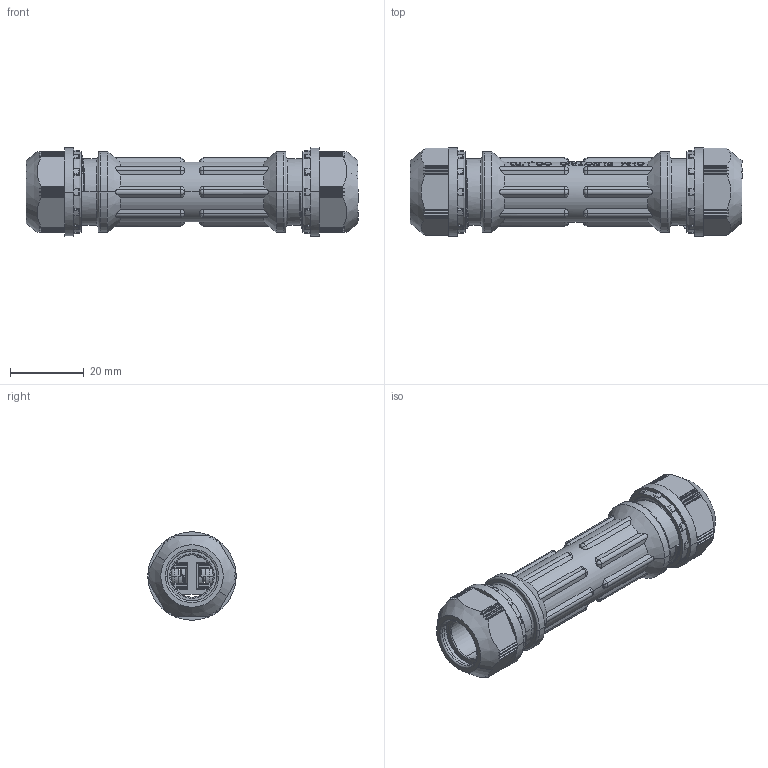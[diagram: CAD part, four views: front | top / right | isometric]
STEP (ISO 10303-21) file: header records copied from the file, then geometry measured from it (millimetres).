
FILE_DESCRIPTION(('Creo Elements/Direct Modeling STEP Export'),'2;1');
FILE_NAME('H08-0011-CL905_OA-QW11S-2.stp','2013-07-24T11:59:15',(''),(''),'Creo Elements/Direct Modeling STEP processor for AP214 (Solid Model)','Creo Elements/Direct Modeling 18.1B 29-Sep-2012 (C) Parametric Technology GmbH','');
FILE_SCHEMA(('AUTOMOTIVE_DESIGN { 1 0 10303 214 1 1 1 1 }'));
Products named in the file (14): OA-QW本体; G11-11; 左側; 右側; Ｍ3.5_ねじ_1; Ｍ3.5_ねじ_2; QW-J2本体_ゲージ付; M3.5_ナット_1; M3.5_バネ座金_1; M3.5_バネ座金_2; M3.5_ナット_2; QW-J2; OA-QW11S
Assembly tree (13 placements, depth 3):
  OA-QW11S
    QW-J2
      M3.5_ナット_2
      M3.5_バネ座金_2
      M3.5_バネ座金_1
      M3.5_ナット_1
      QW-J2本体_ゲージ付
      Ｍ3.5_ねじ_2
      Ｍ3.5_ねじ_1
    右側
      G11-11
    左側
      G11-11
    OA-QW本体
Bounding box: 90.24 x 24 x 24 mm (x, y, z)
Volume: 17625.4 mm3; surface area: 17733.7 mm2
Topology: 10 solids, 16 shells, 1979 faces, 5502 edges, 3620 vertices
Faces by surface type: plane 1417, cylinder 373, cone 89, torus 68, bspline 28, sphere 4
Entity records: 77384 total; most frequent: CARTESIAN_POINT 26884, ORIENTED_EDGE 11018, DIRECTION 9767, EDGE_CURVE 5502, VERTEX_POINT 3620, VECTOR 3297, LINE 3297, AXIS2_PLACEMENT_3D 3235
